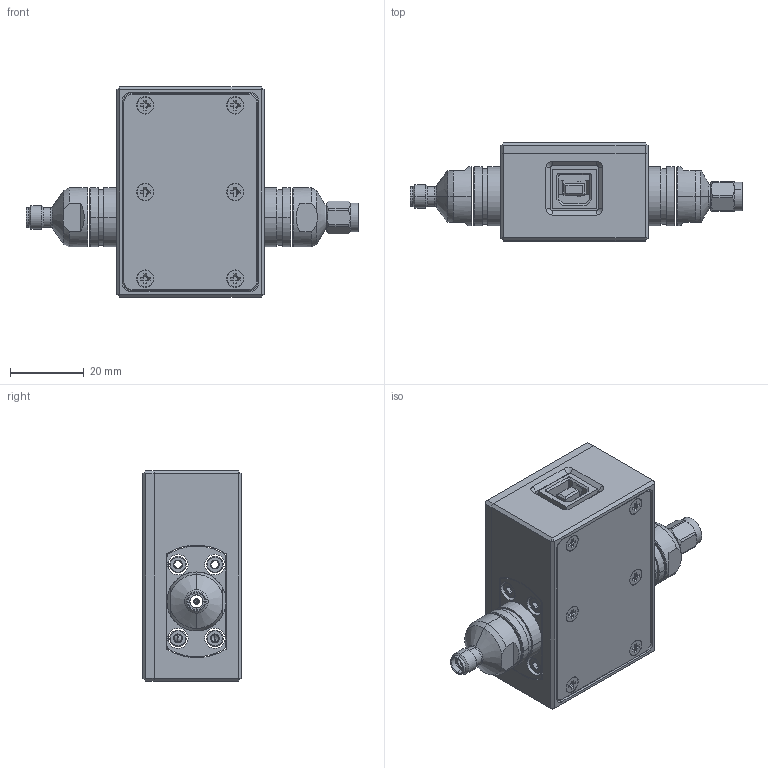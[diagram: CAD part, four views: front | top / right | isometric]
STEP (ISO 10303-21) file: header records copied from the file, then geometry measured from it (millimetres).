
FILE_DESCRIPTION (( 'STEP AP203' ), '1' );
FILE_NAME ('R0385.00.000-04 ACM2520 mod.112.STEP', '2020-06-10T09:31:44', ( '' ), ( '' ), 'SwSTEP 2.0', 'SolidWorks 2014', '' );
FILE_SCHEMA (( 'CONFIG_CONTROL_DESIGN' ));
Length unit declared in the file: millimetre
Products named in the file (1): R0385.00.000-04 ACM2520 mod.112
Bounding box: 90.03 x 26.6 x 57 mm (x, y, z)
Surface area: 19794.8 mm2 (no closed solid volume)
Topology: 0 solids, 39 shells, 718 faces, 2106 edges, 1422 vertices
Faces by surface type: plane 442, cylinder 132, cone 118, torus 26
Entity records: 24047 total; most frequent: CARTESIAN_POINT 5153, DIRECTION 3929, ORIENTED_EDGE 3512, EDGE_CURVE 2102, VERTEX_POINT 1422, VECTOR 1331, LINE 1331, AXIS2_PLACEMENT_3D 1299
